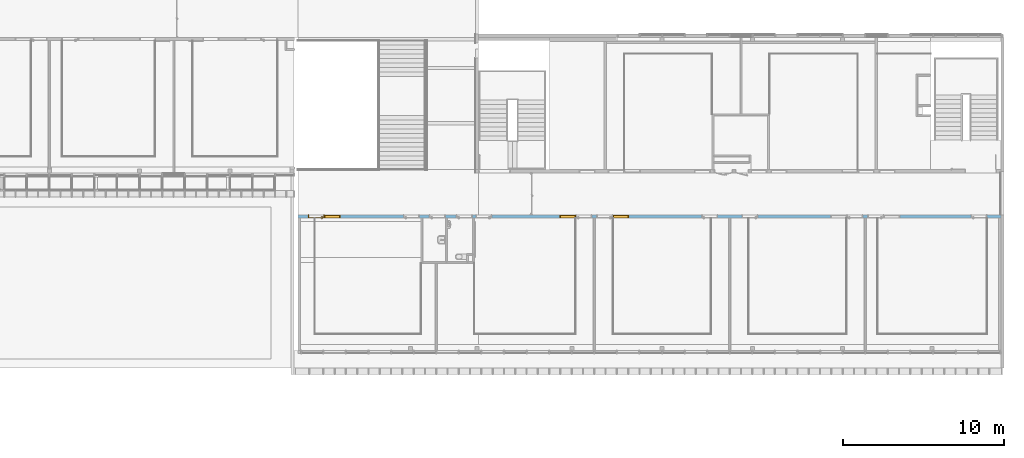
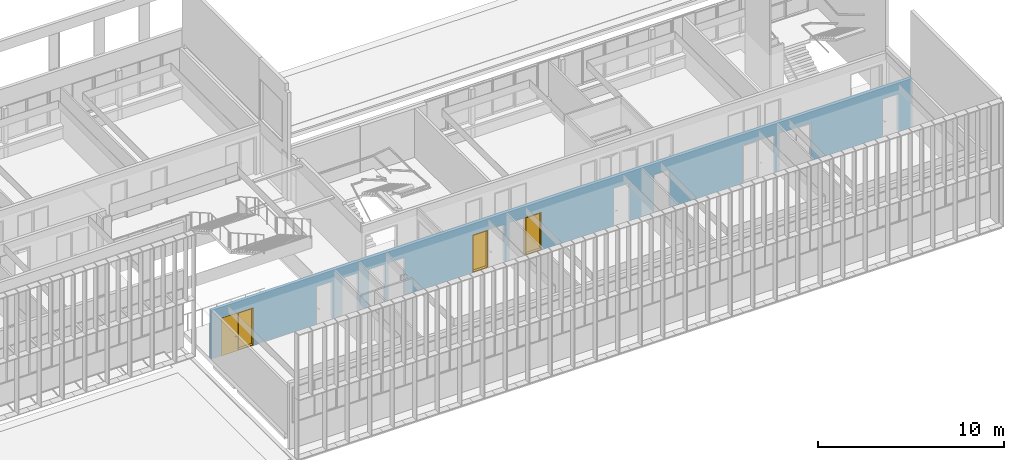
# One storey, part 76 of 106: 3 windows, 1 door, 18 openings, plus 1 element that does not belong to this part.
"""IFC2X3 building model written with IfcOpenShell, lengths in centimetres."""

from ifc_helpers import new_model, entity, si_unit, converted_unit, derived_unit, direction, frame, frame_2d, origin, place, context, subcontext, project, spatial, polyline, rectangle, extrude, clip, bounded_halfspace, faceted_brep, source, transform, mapped, material, material_list, layer, layer_set, layer_usage, type_object, type_shapes, element, fill, save


model = new_model("IFC2X3")

# Units and contexts
model_context = context("Model", 3, precision=0.001, world=origin(), true_north=direction((6.12303176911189e-17, 1.0)))
body_context = subcontext(model_context, "Body", "Model", "MODEL_VIEW")
ifc_project = project(units=[si_unit("LENGTHUNIT", "METRE", prefix="CENTI"), si_unit("AREAUNIT", "SQUARE_METRE"), si_unit("VOLUMEUNIT", "CUBIC_METRE"), converted_unit("PLANEANGLEUNIT", "DEGREE", entity("IfcRatioMeasure", 0.0174532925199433), si_unit("PLANEANGLEUNIT", "RADIAN"), dimensions=[0, 0, 0, 0, 0, 0, 0]), si_unit("MASSUNIT", "GRAM", prefix="KILO"), derived_unit("MASSDENSITYUNIT", [(si_unit("MASSUNIT", "GRAM", prefix="KILO"), 1), (si_unit("LENGTHUNIT", "METRE"), -3)]), si_unit("TIMEUNIT", "SECOND"), si_unit("FREQUENCYUNIT", "HERTZ"), si_unit("THERMODYNAMICTEMPERATUREUNIT", "DEGREE_CELSIUS"), derived_unit("THERMALTRANSMITTANCEUNIT", [(si_unit("MASSUNIT", "GRAM", prefix="KILO"), 1), (si_unit("THERMODYNAMICTEMPERATUREUNIT", "KELVIN"), -1), (si_unit("TIMEUNIT", "SECOND"), -3)]), derived_unit("VOLUMETRICFLOWRATEUNIT", [(si_unit("LENGTHUNIT", "METRE"), 3), (si_unit("TIMEUNIT", "SECOND"), -1)]), si_unit("ELECTRICCURRENTUNIT", "AMPERE"), si_unit("ELECTRICVOLTAGEUNIT", "VOLT"), si_unit("POWERUNIT", "WATT"), si_unit("FORCEUNIT", "NEWTON", prefix="KILO"), si_unit("ILLUMINANCEUNIT", "LUX"), si_unit("LUMINOUSFLUXUNIT", "LUMEN"), si_unit("LUMINOUSINTENSITYUNIT", "CANDELA"), derived_unit("USERDEFINED", [(si_unit("MASSUNIT", "GRAM", prefix="KILO"), -1), (si_unit("LENGTHUNIT", "METRE"), -2), (si_unit("TIMEUNIT", "SECOND"), 3), (si_unit("LUMINOUSFLUXUNIT", "LUMEN"), 1)]), derived_unit("LINEARVELOCITYUNIT", [(si_unit("LENGTHUNIT", "METRE"), 1), (si_unit("TIMEUNIT", "SECOND"), -1)]), si_unit("PRESSUREUNIT", "PASCAL"), derived_unit("USERDEFINED", [(si_unit("LENGTHUNIT", "METRE"), -2), (si_unit("MASSUNIT", "GRAM", prefix="KILO"), 1), (si_unit("TIMEUNIT", "SECOND"), -2)])], contexts=[model_context])

# Site, building, storey
site_placement = place(None, frame((-2781.94577612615, 7442.24238424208, 0.0)))
site = spatial("IfcSite", under=ifc_project, at=site_placement, Name="Default", CompositionType="ELEMENT")
building_placement = place(site_placement, origin())
building = spatial("IfcBuilding", under=site, at=building_placement, CompositionType="ELEMENT")
storey_placement = place(building_placement, frame((0.0, 0.0, 422.0)))
storey = spatial("IfcBuildingStorey", under=building, at=storey_placement, Name="Toiture - Cuisine", CompositionType="ELEMENT", Elevation=421.999999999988)

# Wall, openings, door, windows
ifc_material_1 = material(Name="01 - Maçonnerie")
ifc_layer = layer(ifc_material_1, 20.0)
ifc_layer_set = layer_set([ifc_layer], Name="Mur de base:04 - Structure - béton - 20cm")
ifc_layer_usage = layer_usage(ifc_layer_set, "AXIS2", "NEGATIVE", 10.0)
wall_type = type_object("IfcWallType", Name="Mur de base:04 - Structure - béton - 20cm", PredefinedType="STANDARD", material=ifc_layer_set)
wall_placement = place(building_placement, frame((-4767.99987760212, -2200.15656731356, 422.0)))
wall = element("IfcWallStandardCase", 1, at=wall_placement, inside=storey, type_object=wall_type, material=ifc_layer_usage, Name="Mur de base:04 - Structure - béton - 20cm", ObjectType="Mur de base:04 - Structure - béton - 20cm", context=body_context, shape_type="Clipping", body=[
    clip(extrude(rectangle(XDim=4357.99999476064, YDim=19.9999999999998, at=frame_2d((2178.99999738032, -6.30606677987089e-14), x_axis=(-1.0, 0.0))), origin(), (0.0, 0.0, 1.0), 321.0), bounded_halfspace(frame((0.0, 10.0, 321.0), z_axis=(0.0, 0.0, -1.0), x_axis=(0.0, 1.0, 0.0)), True, frame((0.0, 10.0, 321.0)), polyline([(0.0, 0.0), (0.0, -20.0), (15.2999999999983, -20.0), (103.799999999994, -20.0), (105.799999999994, -20.0), (763.799999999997, -20.0), (773.799999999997, -20.0), (915.699994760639, -20.0), (925.699994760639, -20.0), (1082.69999476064, -20.0), (1092.69999476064, -20.0), (1720.69999476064, -20.0), (1722.69999476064, -20.0), (1832.69999476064, -20.0), (1842.69999476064, -20.0), (1952.69999476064, -20.0), (1954.69999476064, -20.0), (2560.69999476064, -20.0), (2562.69999476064, -20.0), (2672.69999476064, -20.0), (2682.69999476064, -20.0), (2792.69999476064, -20.0), (2794.69999476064, -20.0), (3400.69999476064, -20.0), (3402.69999476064, -20.0), (3512.69999476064, -20.0), (3522.69999476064, -20.0), (3592.69999476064, -20.0), (3594.69999476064, -20.0), (4270.69999476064, -20.0), (4272.69999476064, -20.0), (4342.69999476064, -20.0), (4358.0, -20.0), (4358.0, 0.0), (4356.0, 0.0), (1451.49999791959, 0.0), (1441.49999791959, 0.0), (1120.0, 0.0), (0.0, 0.0)]))),
])
opening_1_placement = place(wall_placement, origin())
element("IfcOpeningElement", 2, at=opening_1_placement, cuts=wall, Name="Mur de base:04 - Structure - béton - 20cm", ObjectType="Opening", context=body_context, shape_type="SweptSolid", body=[
    extrude(rectangle(XDim=270.0, YDim=20.0, at=frame_2d((0.0, 4.2632564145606e-14), x_axis=(0.0, 1.0))), frame((4368.0, 10.0, 135.0), z_axis=(0.0, 1.0, 0.0), x_axis=(1.0, 0.0, 0.0)), (0.0, 0.0, 1.0), 260.077533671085),
])
opening_2_placement = place(wall_placement, frame((4272.69999476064, 10.0, 0.0)))
element("IfcOpeningElement", 3, at=opening_2_placement, cuts=wall, Name="Int. Simple:PV (0.93m x 2.50m):1", ObjectType="Opening", context=body_context, shape_type="SweptSolid", body=[
    extrude(rectangle(XDim=248.500000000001, YDim=99.9999999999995, at=frame_2d((124.250000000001, 50.0), x_axis=(1.0, 0.0))), frame((0.0, 0.0, 0.0), z_axis=(0.0, -1.0, 0.0), x_axis=(0.0, 0.0, 1.0)), (0.0, 0.0, 1.0), 20.0),
])
opening_3_placement = place(wall_placement, frame((3632.69999476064, 10.0, 0.0)))
element("IfcOpeningElement", 4, at=opening_3_placement, cuts=wall, Name="Int. Simple:PV (0.93m x 2.50m):1", ObjectType="Opening", context=body_context, shape_type="SweptSolid", body=[
    extrude(rectangle(XDim=248.500000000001, YDim=99.9999999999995, at=frame_2d((124.250000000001, 49.9999999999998), x_axis=(1.0, 0.0))), frame((0.0, 0.0, 0.0), z_axis=(0.0, -1.0, 0.0), x_axis=(0.0, 0.0, 1.0)), (0.0, 0.0, 1.0), 20.0),
])
opening_4_placement = place(wall_placement, frame((3502.69999476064, 10.0, 0.0)))
element("IfcOpeningElement", 5, at=opening_4_placement, cuts=wall, Name="Int. Simple:PV (0.93m x 2.50m):1", ObjectType="Opening", context=body_context, shape_type="SweptSolid", body=[
    extrude(rectangle(XDim=248.500000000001, YDim=99.9999999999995, at=frame_2d((124.250000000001, 49.9999999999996), x_axis=(1.0, 0.0))), frame((0.0, 0.0, 0.0), z_axis=(0.0, -1.0, 0.0), x_axis=(0.0, 0.0, 1.0)), (0.0, 0.0, 1.0), 20.0),
])
opening_5_placement = place(wall_placement, frame((2852.69999476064, 10.0, 0.0)))
element("IfcOpeningElement", 6, at=opening_5_placement, cuts=wall, Name="Int. Simple:PV (0.93m x 2.50m):1", ObjectType="Opening", context=body_context, shape_type="SweptSolid", body=[
    extrude(rectangle(XDim=248.500000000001, YDim=99.9999999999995, at=frame_2d((124.250000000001, 49.9999999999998), x_axis=(1.0, 0.0))), frame((0.0, 0.0, 0.0), z_axis=(0.0, -1.0, 0.0), x_axis=(0.0, 0.0, 1.0)), (0.0, 0.0, 1.0), 20.0),
])
opening_6_placement = place(wall_placement, frame((2602.69999476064, 10.0, 0.0)))
element("IfcOpeningElement", 7, at=opening_6_placement, cuts=wall, Name="Int. Simple:PV (0.93m x 2.50m):1", ObjectType="Opening", context=body_context, shape_type="SweptSolid", body=[
    extrude(rectangle(XDim=248.500000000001, YDim=99.9999999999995, at=frame_2d((124.250000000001, 49.9999999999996), x_axis=(1.0, 0.0))), frame((0.0, 0.0, 0.0), z_axis=(0.0, -1.0, 0.0), x_axis=(0.0, 0.0, 1.0)), (0.0, 0.0, 1.0), 20.0),
])
opening_7_placement = place(wall_placement, frame((1952.69999476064, 10.0, 0.0)))
element("IfcOpeningElement", 8, at=opening_7_placement, cuts=wall, Name="Int. Simple:PV (0.93m x 2.50m):1", ObjectType="Opening", context=body_context, shape_type="SweptSolid", body=[
    extrude(rectangle(XDim=248.500000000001, YDim=99.9999999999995, at=frame_2d((124.250000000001, 49.9999999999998), x_axis=(1.0, 0.0))), frame((0.0, 0.0, 0.0), z_axis=(0.0, -1.0, 0.0), x_axis=(0.0, 0.0, 1.0)), (0.0, 0.0, 1.0), 20.0),
])
opening_8_placement = place(wall_placement, frame((1822.69999476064, 10.0, 0.0)))
element("IfcOpeningElement", 9, at=opening_8_placement, cuts=wall, Name="Int. Simple:PV (0.93m x 2.50m):1", ObjectType="Opening", context=body_context, shape_type="SweptSolid", body=[
    extrude(rectangle(XDim=248.500000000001, YDim=99.9999999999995, at=frame_2d((124.250000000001, 49.9999999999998), x_axis=(1.0, 0.0))), frame((0.0, 0.0, 0.0), z_axis=(0.0, -1.0, 0.0), x_axis=(0.0, 0.0, 1.0)), (0.0, 0.0, 1.0), 20.0),
])
opening_9_placement = place(wall_placement, frame((1202.69999476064, 10.0, 0.0)))
element("IfcOpeningElement", 10, at=opening_9_placement, cuts=wall, Name="Int. Simple:PV (0.93m x 2.50m):1", ObjectType="Opening", context=body_context, shape_type="SweptSolid", body=[
    extrude(rectangle(XDim=248.500000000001, YDim=99.9999999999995, at=frame_2d((124.250000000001, 49.9999999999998), x_axis=(1.0, 0.0))), frame((0.0, 0.0, 0.0), z_axis=(0.0, -1.0, 0.0), x_axis=(0.0, 0.0, 1.0)), (0.0, 0.0, 1.0), 20.0),
])
opening_10_placement = place(wall_placement, frame((1081.19999476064, 10.0, 0.0)))
element("IfcOpeningElement", 11, at=opening_10_placement, cuts=wall, Name="Int. Simple:PP simple (0.93m x 2.50m):1", ObjectType="Opening", context=body_context, shape_type="SweptSolid", body=[
    extrude(rectangle(XDim=248.500000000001, YDim=99.9999999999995, at=frame_2d((124.250000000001, 49.9999999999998), x_axis=(1.0, 0.0))), frame((0.0, 0.0, 0.0), z_axis=(0.0, -1.0, 0.0), x_axis=(0.0, 0.0, 1.0)), (0.0, 0.0, 1.0), 20.0),
])
opening_11_placement = place(wall_placement, frame((753.799999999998, 10.0, 0.0)))
element("IfcOpeningElement", 12, at=opening_11_placement, cuts=wall, Name="Int. Simple:PV (0.93m x 2.50m):1", ObjectType="Opening", context=body_context, shape_type="SweptSolid", body=[
    extrude(rectangle(XDim=248.500000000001, YDim=99.9999999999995, at=frame_2d((124.250000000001, 50.0), x_axis=(1.0, 0.0))), frame((0.0, 0.0, 0.0), z_axis=(0.0, -1.0, 0.0), x_axis=(0.0, 0.0, 1.0)), (0.0, 0.0, 1.0), 20.0),
])
opening_12_placement = place(wall_placement, frame((163.799999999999, 10.0, 0.0)))
opening_12 = element("IfcOpeningElement", 13, at=opening_12_placement, cuts=wall, Name="Int. Simple:PV (0.93m x 2.50m):1", ObjectType="Opening", context=body_context, shape_type="SweptSolid", body=[
    extrude(rectangle(XDim=248.500000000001, YDim=99.9999999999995, at=frame_2d((124.250000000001, 49.9999999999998), x_axis=(1.0, 0.0))), frame((0.0, 0.0, 0.0), z_axis=(0.0, -1.0, 0.0), x_axis=(0.0, 0.0, 1.0)), (0.0, 0.0, 1.0), 20.0),
])
opening_13_placement = place(wall_placement, frame((263.799999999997, 10.0, 0.0)))
opening_13 = element("IfcOpeningElement", 14, at=opening_13_placement, cuts=wall, Name="châssis intérieur vitré:châssis intérieur vitré (h=270) R+1:1", ObjectType="Opening", context=body_context, shape_type="SweptSolid", body=[
    extrude(rectangle(XDim=250.0, YDim=99.9999999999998, at=frame_2d((125.0, 49.9999999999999), x_axis=(1.0, 0.0))), frame((0.0, 0.0, 0.0), z_axis=(0.0, -1.0, 0.0), x_axis=(0.0, 0.0, 1.0)), (0.0, 0.0, 1.0), 20.0),
])
opening_14_placement = place(wall_placement, frame((1722.69999476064, 10.0, 0.0)))
opening_14 = element("IfcOpeningElement", 15, at=opening_14_placement, cuts=wall, Name="châssis intérieur vitré:châssis intérieur vitré (h=270) R+1:1", ObjectType="Opening", context=body_context, shape_type="SweptSolid", body=[
    extrude(rectangle(XDim=250.0, YDim=99.9999999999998, at=frame_2d((125.0, 49.9999999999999), x_axis=(1.0, 0.0))), frame((0.0, 0.0, 0.0), z_axis=(0.0, -1.0, 0.0), x_axis=(0.0, 0.0, 1.0)), (0.0, 0.0, 1.0), 20.0),
])
opening_15_placement = place(wall_placement, frame((2052.69999476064, 10.0, 0.0)))
opening_15 = element("IfcOpeningElement", 16, at=opening_15_placement, cuts=wall, Name="châssis intérieur vitré:châssis intérieur vitré (h=270) R+1:1", ObjectType="Opening", context=body_context, shape_type="SweptSolid", body=[
    extrude(rectangle(XDim=250.0, YDim=99.9999999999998, at=frame_2d((125.0, 49.9999999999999), x_axis=(1.0, 0.0))), frame((0.0, 0.0, 0.0), z_axis=(0.0, -1.0, 0.0), x_axis=(0.0, 0.0, 1.0)), (0.0, 0.0, 1.0), 20.0),
])
opening_16_placement = place(wall_placement, frame((3402.69999476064, 10.0, 0.0)))
element("IfcOpeningElement", 17, at=opening_16_placement, cuts=wall, Name="châssis intérieur vitré:châssis intérieur vitré (h=270) R+1:1", ObjectType="Opening", context=body_context, shape_type="SweptSolid", body=[
    extrude(rectangle(XDim=250.0, YDim=99.9999999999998, at=frame_2d((125.0, 49.9999999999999), x_axis=(1.0, 0.0))), frame((0.0, 0.0, 0.0), z_axis=(0.0, -1.0, 0.0), x_axis=(0.0, 0.0, 1.0)), (0.0, 0.0, 1.0), 20.0),
])
opening_17_placement = place(wall_placement, frame((3732.69999476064, 10.0, 0.0)))
element("IfcOpeningElement", 18, at=opening_17_placement, cuts=wall, Name="châssis intérieur vitré:châssis intérieur vitré (h=270) R+1:1", ObjectType="Opening", context=body_context, shape_type="SweptSolid", body=[
    extrude(rectangle(XDim=250.0, YDim=99.9999999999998, at=frame_2d((125.0, 49.9999999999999), x_axis=(1.0, 0.0))), frame((0.0, 0.0, 0.0), z_axis=(0.0, -1.0, 0.0), x_axis=(0.0, 0.0, 1.0)), (0.0, 0.0, 1.0), 20.0),
])
opening_18_placement = place(wall_placement, frame((914.199994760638, 10.0, 0.0)))
element("IfcOpeningElement", 19, at=opening_18_placement, cuts=wall, Name="Int. Simple:PP simple (0.93m x 2.50m):1", ObjectType="Opening", context=body_context, shape_type="SweptSolid", body=[
    extrude(rectangle(XDim=248.500000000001, YDim=99.9999999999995, at=frame_2d((124.250000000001, 50.0), x_axis=(1.0, 0.0))), frame((0.0, 0.0, 0.0), z_axis=(0.0, -1.0, 0.0), x_axis=(0.0, 0.0, 1.0)), (0.0, 0.0, 1.0), 20.0),
])
ifc_material_2 = material(Name="Finition Peinture - Blanc satiné")
ifc_material_3 = material(Name="Bois - Panneau de porte")
ifc_material_4 = material(Name="Bois - Cadre de porte")
ifc_material_list_1 = material_list([ifc_material_2, ifc_material_3, ifc_material_4])
ifc_material_list_2 = material_list([ifc_material_2, ifc_material_3, ifc_material_4])
door_style = type_object("IfcDoorStyle", Name="PV (0.93m x 2.50m)", ConstructionType="NOTDEFINED", OperationType="SINGLE_SWING_RIGHT", ParameterTakesPrecedence=False, Sizeable=False, material=ifc_material_list_2)
shared_shape_1 = source(origin(), body_context, "Body", "Brep", [
    faceted_brep([(99.5000000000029, -0.500000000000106, 87.0), (99.5000000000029, -0.500000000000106, 108.0), (98.535276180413, -0.500000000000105, 108.399601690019), (97.5000000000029, -0.500000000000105, 108.535898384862), (96.4647238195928, -0.500000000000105, 108.399601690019), (95.500000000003, -0.500000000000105, 108.0), (95.5000000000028, -0.500000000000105, 87.0), (96.4647238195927, -0.500000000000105, 86.6003983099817), (97.5000000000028, -0.500000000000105, 86.464101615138), (98.5352761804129, -0.500000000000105, 86.6003983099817), (99.5000000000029, 0.0, 108.0), (99.5000000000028, 0.0, 87.0), (98.5352761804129, 0.0, 86.6003983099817), (97.5000000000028, 0.0, 86.464101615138), (96.4647238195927, 0.0, 86.6003983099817), (95.5000000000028, 0.0, 87.0), (95.5000000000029, 0.0, 108.0), (96.4647238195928, 0.0, 108.399601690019), (97.5000000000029, 0.0, 108.535898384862), (98.535276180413, 0.0, 108.399601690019)], [[[0, 1, 2, 3, 4, 5, 6, 7, 8, 9]], [[10, 11, 12, 13, 14, 15, 16, 17, 18, 19]], [[9, 12, 11, 0]], [[8, 13, 12, 9]], [[7, 14, 13, 8]], [[7, 6, 15, 14]], [[15, 6, 5, 16]], [[4, 17, 16, 5]], [[3, 18, 17, 4]], [[2, 19, 18, 3]], [[2, 1, 10, 19]], [[11, 10, 1, 0]]]),
    faceted_brep([(99.5000000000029, 4.0, 87.0), (99.5000000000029, 4.0, 108.0), (98.535276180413, 4.0, 108.399601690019), (97.5000000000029, 4.0, 108.535898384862), (96.4647238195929, 4.0, 108.399601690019), (95.500000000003, 4.0, 108.0), (95.5000000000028, 4.0, 87.0), (96.4647238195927, 4.0, 86.6003983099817), (97.5000000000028, 4.0, 86.464101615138), (98.5352761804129, 4.0, 86.6003983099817), (97.5000000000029, 4.49999999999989, 108.535898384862), (98.535276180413, 4.49999999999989, 108.399601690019), (99.5000000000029, 4.49999999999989, 108.0), (99.5000000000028, 4.49999999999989, 87.0), (98.5352761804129, 4.49999999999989, 86.6003983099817), (97.5000000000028, 4.49999999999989, 86.464101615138), (96.4647238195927, 4.49999999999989, 86.6003983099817), (95.5000000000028, 4.49999999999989, 87.0), (95.500000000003, 4.49999999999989, 108.0), (96.4647238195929, 4.49999999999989, 108.399601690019)], [[[0, 1, 2, 3, 4, 5, 6, 7, 8, 9]], [[10, 11, 12, 13, 14, 15, 16, 17, 18, 19]], [[4, 19, 18, 5]], [[3, 10, 19, 4]], [[2, 11, 10, 3]], [[2, 1, 12, 11]], [[13, 12, 1, 0]], [[9, 14, 13, 0]], [[8, 15, 14, 9]], [[7, 16, 15, 8]], [[7, 6, 17, 16]], [[17, 6, 5, 18]]]),
    faceted_brep([(97.2974701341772, -0.500000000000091, 100.778044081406), (97.7025298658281, -0.500000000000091, 100.778044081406), (98.1000000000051, -0.500000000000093, 100.699999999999), (98.100000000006, -0.500000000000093, 99.2999999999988), (97.7025298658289, -0.500000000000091, 99.221955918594), (97.297470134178, -0.500000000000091, 99.2219559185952), (96.9000000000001, -0.500000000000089, 99.3000000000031), (96.9000000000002, -0.500000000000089, 100.7), (97.7025298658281, -3.10045754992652, 100.778044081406), (98.1000000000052, -3.26509507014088, 100.7), (97.2974701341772, -2.93267631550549, 100.778044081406), (95.9298602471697, -4.30028620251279, 100.778044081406), (96.0976414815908, -4.70534593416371, 100.778044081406), (96.9000000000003, -2.76803879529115, 100.7), (96.9000000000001, -2.76803879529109, 99.3000000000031), (97.297470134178, -2.93267631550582, 99.2219559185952), (97.7025298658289, -3.10045754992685, 99.221955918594), (96.0976414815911, -4.70534593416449, 99.221955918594), (95.9298602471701, -4.30028620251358, 99.2219559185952), (98.100000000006, -3.26509507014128, 99.2999999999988), (96.2622790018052, -5.1028160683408, 100.7), (95.7652227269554, -3.90281606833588, 100.7), (95.7652227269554, -3.90281606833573, 99.3000000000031), (96.2622790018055, -5.10281606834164, 99.2999999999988), (87.4981359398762, -5.10281606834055, 100.7), (87.4981359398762, -4.70534593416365, 100.778044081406), (87.4981359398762, -4.30028620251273, 100.778044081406), (87.4981359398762, -3.90281606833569, 100.699999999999), (87.4981359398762, -3.90281606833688, 99.3000000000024), (87.4981359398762, -4.30028620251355, 99.2219559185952), (87.4981359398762, -4.70534593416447, 99.221955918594), (87.4981359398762, -5.10281606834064, 99.2999999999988), (91.7139980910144, -4.5028160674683, 100.78786867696), (92.2692302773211, -5.1028160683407, 100.7), (91.6316793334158, -3.9028160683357, 100.7), (91.631679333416, -3.90281606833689, 99.3000000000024), (91.7139981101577, -4.50281607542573, 99.2121313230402), (92.2692310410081, -5.10281606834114, 99.2999999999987)], [[[0, 1, 2, 3, 4, 5, 6, 7]], [[2, 1, 8, 9]], [[1, 0, 10, 11, 12, 8]], [[0, 7, 13, 10]], [[14, 13, 7, 6]], [[5, 15, 14, 6]], [[5, 4, 16, 17, 18, 15]], [[3, 19, 16, 4]], [[9, 19, 3, 2]], [[9, 8, 12, 20]], [[10, 13, 21, 11]], [[22, 21, 13, 14]], [[14, 15, 18, 22]], [[16, 19, 23, 17]], [[20, 23, 19, 9]], [[24, 25, 26, 27, 28, 29, 30, 31]], [[32, 25, 33]], [[33, 25, 24]], [[33, 20, 12]], [[11, 34, 32]], [[34, 11, 21]], [[27, 26, 34]], [[32, 26, 25]], [[32, 34, 26]], [[32, 33, 12]], [[11, 32, 12]], [[21, 22, 35, 28, 27, 34]], [[36, 29, 35]], [[30, 36, 37]], [[18, 35, 22]], [[29, 28, 35]], [[30, 37, 31]], [[37, 17, 23]], [[36, 17, 37]], [[36, 18, 17]], [[36, 35, 18]], [[29, 36, 30]], [[23, 20, 33, 24, 31, 37]]]),
    faceted_brep([(97.2974701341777, 4.49999999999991, 99.2219559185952), (97.7025298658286, 4.49999999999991, 99.221955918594), (98.1000000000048, 4.4999999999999, 99.2999999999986), (98.1000000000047, 4.4999999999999, 100.7), (97.7025298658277, 4.49999999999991, 100.778044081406), (97.2974701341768, 4.49999999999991, 100.778044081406), (96.8999999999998, 4.49999999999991, 100.7), (96.900000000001, 4.49999999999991, 99.3000000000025), (96.8999999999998, 6.7485204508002, 100.7), (96.8999999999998, 6.74852045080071, 99.3000000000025), (97.2974701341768, 6.91315797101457, 100.778044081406), (97.7025298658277, 7.0809392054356, 100.778044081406), (96.0838906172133, 8.69957845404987, 100.778044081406), (95.9161093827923, 8.29451872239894, 100.778044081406), (98.1000000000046, 7.24557672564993, 100.7), (98.1000000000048, 7.24557672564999, 99.2999999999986), (97.7025298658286, 7.08093920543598, 99.221955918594), (97.2974701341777, 6.91315797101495, 99.2219559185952), (95.9161093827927, 8.29451872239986, 99.2219559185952), (96.0838906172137, 8.69957845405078, 99.221955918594), (95.751471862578, 7.89704858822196, 100.7), (95.7514718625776, 7.89704858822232, 99.3000000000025), (96.2485281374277, 9.09704858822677, 100.7), (96.2485281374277, 9.09704858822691, 99.2999999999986), (87.4954216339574, 8.29451872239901, 100.778044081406), (87.4954216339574, 8.69957845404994, 100.778044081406), (87.4954216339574, 9.09704858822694, 100.7), (87.4954216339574, 9.09704858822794, 99.2999999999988), (87.4954216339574, 8.6995784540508, 99.221955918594), (87.4954216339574, 8.29451872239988, 99.2219559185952), (87.4954216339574, 7.89704858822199, 99.3000000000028), (87.4954216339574, 7.89704858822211, 100.7), (91.6234467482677, 7.89704858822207, 100.7), (91.6234479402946, 7.89704858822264, 99.3000000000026), (91.7057655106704, 8.49704858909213, 100.78786867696), (92.255479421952, 9.09704858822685, 100.7), (92.2554795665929, 9.09704858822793, 99.2999999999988), (91.7057654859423, 8.49704858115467, 99.2121313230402)], [[[0, 1, 2, 3, 4, 5, 6, 7]], [[8, 9, 7, 6]], [[5, 10, 8, 6]], [[5, 4, 11, 12, 13, 10]], [[3, 14, 11, 4]], [[14, 3, 2, 15]], [[2, 1, 16, 15]], [[1, 0, 17, 18, 19, 16]], [[0, 7, 9, 17]], [[20, 21, 9, 8]], [[8, 10, 13, 20]], [[14, 22, 12, 11]], [[23, 22, 14, 15]], [[15, 16, 19, 23]], [[17, 9, 21, 18]], [[24, 25, 26, 27, 28, 29, 30, 31]], [[21, 20, 32, 31, 30, 33]], [[34, 24, 32]], [[25, 34, 35]], [[13, 32, 20]], [[24, 31, 32]], [[25, 35, 26]], [[35, 12, 22]], [[34, 12, 35]], [[34, 13, 12]], [[34, 32, 13]], [[24, 34, 25]], [[22, 23, 36, 27, 26, 35]], [[37, 28, 36]], [[36, 28, 27]], [[36, 23, 19]], [[18, 33, 37]], [[33, 18, 21]], [[30, 29, 33]], [[37, 29, 28]], [[37, 33, 29]], [[37, 36, 19]], [[18, 37, 19]]]),
    faceted_brep([(103.500000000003, 4.0, 245.0), (103.500000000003, 4.0, 0.0), (10.5000000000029, 4.0, 0.0), (10.5000000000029, 4.0, 245.0), (103.500000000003, 0.0, 245.0), (10.5000000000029, 0.0, 245.0), (10.5000000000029, 0.0, 0.0), (103.500000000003, 0.0, 0.0)], [[[0, 1, 2, 3]], [[4, 5, 6, 7]], [[3, 5, 4, 0]], [[2, 6, 5, 3]], [[1, 7, 6, 2]], [[0, 4, 7, 1]]]),
    faceted_brep([(107.0, 20.0, 0.0), (107.0, 0.0, 0.0), (108.500000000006, 0.0, 0.0), (108.500000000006, -0.500000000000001, 0.0), (103.500000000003, -0.500000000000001, 0.0), (103.500000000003, 4.0, 0.0), (102.0, 4.0, 0.0), (102.0, 20.5000000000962, 0.0), (108.500000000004, 20.5000000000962, 0.0), (108.500000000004, 20.0, 0.0), (108.500000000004, 20.0, 250.0), (5.50000000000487, 20.0, 250.0), (5.50000000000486, 20.0, 0.0), (7.0, 20.0, 0.0), (7.0, 20.0, 248.500000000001), (107.0, 20.0, 248.500000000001), (108.500000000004, 20.5000000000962, 250.0), (102.0, 20.5000000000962, 243.5), (12.0, 20.5000000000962, 243.5), (12.0, 20.5000000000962, 0.0), (5.50000000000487, 20.5000000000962, 0.0), (5.50000000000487, 20.5000000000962, 250.0), (102.0, 4.0, 243.5), (103.500000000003, 4.0, 245.0), (10.5000000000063, 4.0, 245.0), (10.5000000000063, 4.0, 0.0), (12.0, 4.0, 0.0), (12.0, 4.0, 243.5), (103.500000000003, -0.500000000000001, 245.0), (108.500000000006, -0.500000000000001, 250.0), (5.5000000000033, -0.500000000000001, 250.0), (5.50000000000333, -0.500000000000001, 0.0), (10.5000000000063, -0.500000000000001, 0.0), (10.5000000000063, -0.500000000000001, 245.0), (108.500000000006, 0.0, 250.0), (107.0, 0.0, 248.500000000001), (7.0, 0.0, 248.500000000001), (7.0, 0.0, 0.0), (5.5000000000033, 0.0, 0.0), (5.50000000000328, 0.0, 250.0)], [[[0, 1, 2, 3, 4, 5, 6, 7, 8, 9]], [[9, 10, 11, 12, 13, 14, 15, 0]], [[8, 16, 10, 9]], [[7, 17, 18, 19, 20, 21, 16, 8]], [[7, 6, 22, 17]], [[5, 23, 24, 25, 26, 27, 22, 6]], [[5, 4, 28, 23]], [[3, 29, 30, 31, 32, 33, 28, 4]], [[2, 34, 29, 3]], [[1, 35, 36, 37, 38, 39, 34, 2]], [[0, 15, 35, 1]], [[14, 13, 37, 36]], [[13, 12, 20, 19, 26, 25, 32, 31, 38, 37]], [[21, 20, 12, 11]], [[27, 26, 19, 18]], [[33, 32, 25, 24]], [[39, 38, 31, 30]], [[16, 21, 11, 10]], [[22, 27, 18, 17]], [[28, 33, 24, 23]], [[34, 39, 30, 29]], [[15, 14, 36, 35]]]),
])
type_shapes(door_style, [shared_shape_1])
door_placement = place(opening_12_placement, frame((-107.0, -20.0, 0.0)))
door = element("IfcDoor", 20, at=door_placement, inside=storey, type_object=door_style, material=ifc_material_list_1, Name="Int. Simple:PV (0.93m x 2.50m)", ObjectType="Int. Simple:PV (0.93m x 2.50m)", OverallHeight=248.500000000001, OverallWidth=99.9999999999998, context=body_context, shape_type="MappedRepresentation", body=[
    mapped(shared_shape_1, transform((0.0, 0.0, 0.0), scale=1.0)),
])
fill(opening_12, door)
ifc_material_5 = material(Name="Verre")
ifc_material_6 = material(Name="huisserie bois")
ifc_material_list_3 = material_list([ifc_material_5, ifc_material_6])
ifc_material_list_4 = material_list([ifc_material_5, ifc_material_6])
window_style = type_object("IfcWindowStyle", Name="châssis intérieur vitré (h=270) R+1", ConstructionType="NOTDEFINED", OperationType="NOTDEFINED", ParameterTakesPrecedence=False, Sizeable=False, material=ifc_material_list_4)
shared_shape_2 = source(origin(), body_context, "Body", "Brep", [
    faceted_brep([(97.0, 5.0, 247.0), (97.0, 5.0, 3.0), (3.0, 5.0, 3.0), (3.0, 5.0, 247.0), (97.0, 2.0, 247.0), (97.0, 2.0, 3.0), (3.0, 2.0, 3.0), (3.0, 2.0, 247.0)], [[[0, 1, 2, 3]], [[1, 0, 4, 5]], [[2, 1, 5, 6]], [[3, 2, 6, 7]], [[4, 7, 6, 5]], [[0, 3, 7, 4]]]),
    faceted_brep([(97.0, 2.0, 247.0), (97.0, 0.0, 247.0), (97.0, 0.0, 3.0), (97.0, 2.0, 3.0), (95.0, 0.0, 5.0), (5.0, 0.0, 5.0), (5.0, 0.0, 245.0), (95.0, 0.0, 245.0), (3.0, 0.0, 247.0), (3.0, 0.0, 3.0), (3.0, 2.0, 3.0), (3.0, 2.0, 247.0), (95.0, 2.0, 245.0), (5.0, 2.0, 245.0), (5.0, 2.0, 5.0), (95.0, 2.0, 5.0)], [[[0, 1, 2, 3]], [[4, 5, 6, 7], [1, 8, 9, 2]], [[3, 2, 9, 10]], [[3, 10, 11, 0], [12, 13, 14, 15]], [[7, 12, 15, 4]], [[4, 15, 14, 5]], [[10, 9, 8, 11]], [[5, 14, 13, 6]], [[11, 8, 1, 0]], [[6, 13, 12, 7]]], outer=[[True], [False, True], [True], [True, False], [True], [True], [True], [True], [True], [True]]),
    faceted_brep([(95.0, 5.0, 245.0), (95.0, 20.0, 245.0), (95.0, 20.0, 5.0), (95.0, 5.0, 5.0), (100.0, 20.0, 0.0), (0.0, 20.0, 0.0), (0.0, 20.0, 250.0), (100.0, 20.0, 250.0), (5.0, 20.0, 245.0), (5.0, 20.0, 5.0), (5.0, 5.0, 5.0), (5.0, 5.0, 245.0), (97.0, 5.0, 247.0), (3.0, 5.0, 247.0), (3.0, 5.0, 3.0), (97.0, 5.0, 3.0), (97.0, 0.0, 247.0), (97.0, 0.0, 3.0), (3.0, 0.0, 3.0), (3.0, 0.0, 247.0), (100.0, 0.0, 250.0), (0.0, 0.0, 250.0), (0.0, 0.0, 0.0), (100.0, 0.0, 0.0)], [[[0, 1, 2, 3]], [[4, 5, 6, 7], [1, 8, 9, 2]], [[3, 2, 9, 10]], [[3, 10, 11, 0], [12, 13, 14, 15]], [[16, 12, 15, 17]], [[17, 15, 14, 18]], [[17, 18, 19, 16], [20, 21, 22, 23]], [[7, 20, 23, 4]], [[4, 23, 22, 5]], [[10, 9, 8, 11]], [[18, 14, 13, 19]], [[5, 22, 21, 6]], [[11, 8, 1, 0]], [[19, 13, 12, 16]], [[6, 21, 20, 7]]], outer=[[True], [True, False], [True], [False, True], [True], [True], [False, True], [True], [True], [True], [True], [True], [True], [True], [True]]),
])
type_shapes(window_style, [shared_shape_2])
window_1_placement = place(opening_13_placement, frame((0.0, 0.0, 0.0), z_axis=(0.0, 0.0, 1.0), x_axis=(-1.0, 0.0, 0.0)))
window_1 = element("IfcWindow", 21, at=window_1_placement, inside=storey, type_object=window_style, material=ifc_material_list_3, Name="châssis intérieur vitré:châssis intérieur vitré (h=270) R+1", ObjectType="châssis intérieur vitré:châssis intérieur vitré (h=270) R+1", OverallHeight=250.0, OverallWidth=99.9999999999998, context=body_context, shape_type="MappedRepresentation", body=[
    mapped(shared_shape_2, transform((0.0, 0.0, 0.0), scale=1.0)),
])
fill(opening_13, window_1)
ifc_material_list_5 = material_list([ifc_material_5, ifc_material_6])
window_2_placement = place(opening_14_placement, frame((0.0, 0.0, 0.0), z_axis=(0.0, 0.0, 1.0), x_axis=(-1.0, 0.0, 0.0)))
window_2 = element("IfcWindow", 22, at=window_2_placement, inside=storey, type_object=window_style, material=ifc_material_list_5, Name="châssis intérieur vitré:châssis intérieur vitré (h=270) R+1", ObjectType="châssis intérieur vitré:châssis intérieur vitré (h=270) R+1", OverallHeight=250.0, OverallWidth=99.9999999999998, context=body_context, shape_type="MappedRepresentation", body=[
    mapped(shared_shape_2, transform((0.0, 0.0, 0.0), scale=1.0)),
])
fill(opening_14, window_2)
ifc_material_list_6 = material_list([ifc_material_5, ifc_material_6])
window_3_placement = place(opening_15_placement, frame((0.0, 0.0, 0.0), z_axis=(0.0, 0.0, 1.0), x_axis=(-1.0, 0.0, 0.0)))
window_3 = element("IfcWindow", 23, at=window_3_placement, inside=storey, type_object=window_style, material=ifc_material_list_6, Name="châssis intérieur vitré:châssis intérieur vitré (h=270) R+1", ObjectType="châssis intérieur vitré:châssis intérieur vitré (h=270) R+1", OverallHeight=250.0, OverallWidth=99.9999999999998, context=body_context, shape_type="MappedRepresentation", body=[
    mapped(shared_shape_2, transform((0.0, 0.0, 0.0), scale=1.0)),
])
fill(opening_15, window_3)

save(model, "model.ifc")
